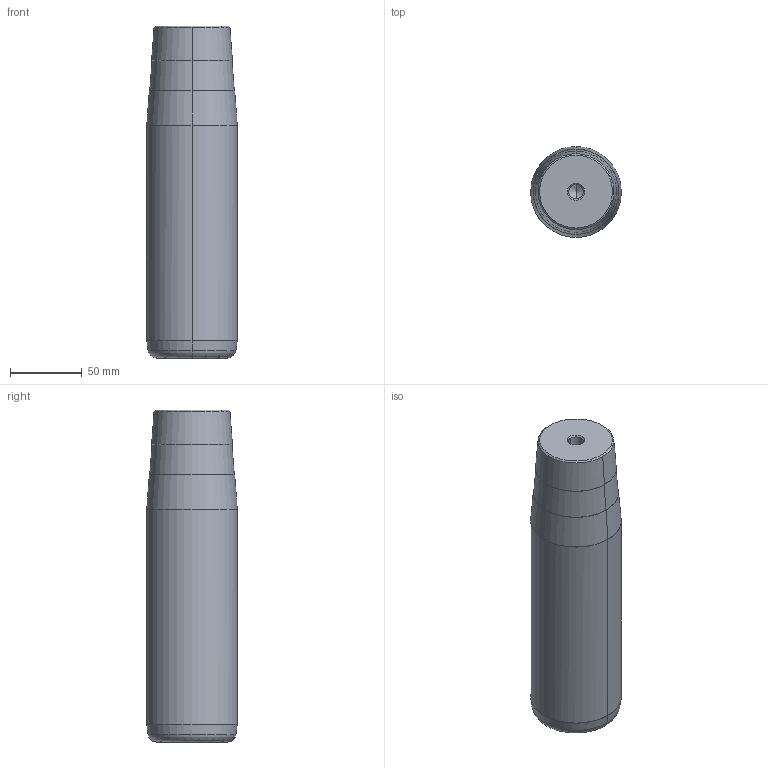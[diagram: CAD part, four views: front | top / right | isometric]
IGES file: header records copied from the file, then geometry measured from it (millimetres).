
Start section: START RECORD GO HERE.
Global section: file name: 722-63x180x231.igs; native system: DASSAULT SYSTEMES CATIA V5 R20 - www.3ds.com; preprocessor: CATIA Version 5 Release 20 ; author: Utente; organization: NB04-ASUS; date: 20210107.202557; units: millimetre
Bounding box: 63 x 63 x 231 mm (x, y, z)
Surface area: 50968 mm2 (no closed solid volume)
Topology: 0 solids, 0 shells, 32 faces, 192 edges, 188 vertices
Faces by surface type: revolution 30, plane 2
